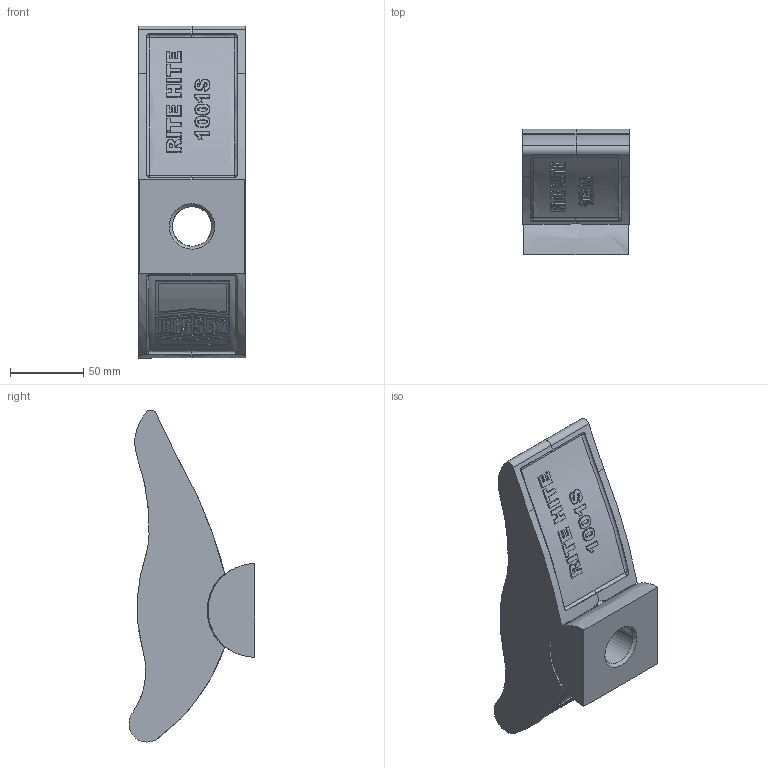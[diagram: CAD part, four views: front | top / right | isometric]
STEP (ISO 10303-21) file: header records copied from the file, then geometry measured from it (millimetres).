
FILE_DESCRIPTION( ( 'STEP AP214' ), '1' );
FILE_NAME( 'X:/CAD_Daten_Platzhalter/S1001S_Rite Hite/1001S.stp', ' ', ( ' ' ), ( ' ' ), 'PSStep 11.0', ' ', ' ' );
FILE_SCHEMA( ( 'AUTOMOTIVE_DESIGN { 1 0 10303 214 1 1 1 1 }' ) );
Length unit declared in the file: metre
Products named in the file (2): 1; 2
Bounding box: 73 x 86.09 x 226.88 mm (x, y, z)
Volume: 98464.1 mm3; surface area: 80920.5 mm2
Topology: 1 solids, 403 shells, 426 faces, 2191 edges, 2160 vertices
Faces by surface type: bspline 426
Entity records: 43558 total; most frequent: CARTESIAN_POINT 29835, ORIENTED_EDGE 2238, EDGE_CURVE 2182, VERTEX_POINT 2160, B_SPLINE_CURVE_WITH_KNOTS 2027, EDGE_LOOP 458, FACE_BOUND 434, STYLED_ITEM 426
